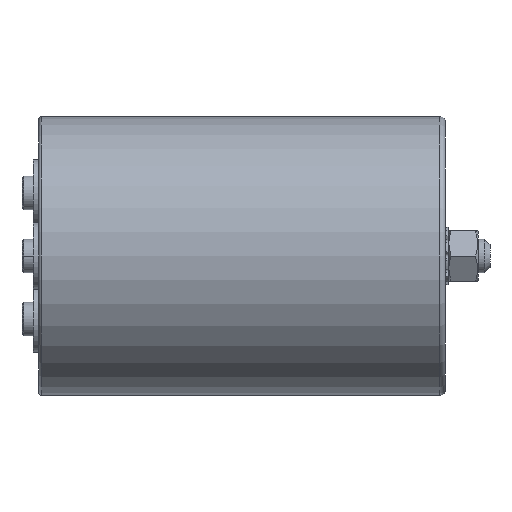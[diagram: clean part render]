
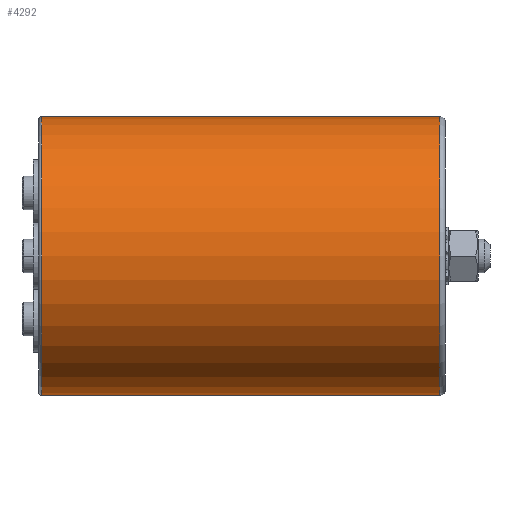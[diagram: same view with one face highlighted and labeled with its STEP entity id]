
A CAD part, left-side view. The second image highlights one B-rep face of the part: STEP entity #4292.
In plain terms, the highlighted cylindrical face has radius 50 mm (diameter 100 mm), a partial arc.
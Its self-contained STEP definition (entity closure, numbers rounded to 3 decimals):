
#128 = DIRECTION ( 'NONE',  ( 0., -1., 0. ) ) ;
#280 = CARTESIAN_POINT ( 'NONE',  ( 0., 2., 50. ) ) ;
#356 = EDGE_CURVE ( 'NONE', #4314, #386, #4655, .T. ) ;
#386 = VERTEX_POINT ( 'NONE', #280 ) ;
#798 = AXIS2_PLACEMENT_3D ( 'NONE', #2285, #2259, #3006 ) ;
#1160 = VERTEX_POINT ( 'NONE', #4088 ) ;
#1203 = VECTOR ( 'NONE', #2088, 1000. ) ;
#1311 = EDGE_CURVE ( 'NONE', #1160, #4456, #4499, .T. ) ;
#1419 = VECTOR ( 'NONE', #128, 1000. ) ;
#1425 = EDGE_CURVE ( 'NONE', #4314, #1160, #3268, .T. ) ;
#1721 = CYLINDRICAL_SURFACE ( 'NONE', #4596, 50. ) ;
#1747 = CARTESIAN_POINT ( 'NONE',  ( 0., 145., 0. ) ) ;
#1808 = AXIS2_PLACEMENT_3D ( 'NONE', #1747, #2798, #2820 ) ;
#1979 = CARTESIAN_POINT ( 'NONE',  ( 0., 0., -50. ) ) ;
#2064 = CARTESIAN_POINT ( 'NONE',  ( 0., 0., 50. ) ) ;
#2088 = DIRECTION ( 'NONE',  ( 0., -1., 0. ) ) ;
#2250 = ORIENTED_EDGE ( 'NONE', *, *, #356, .F. ) ;
#2259 = DIRECTION ( 'NONE',  ( 0., 1., 0. ) ) ;
#2285 = CARTESIAN_POINT ( 'NONE',  ( 0., 2., 0. ) ) ;
#2376 = EDGE_CURVE ( 'NONE', #4456, #386, #3572, .T. ) ;
#2478 = CARTESIAN_POINT ( 'NONE',  ( 0., 2., -50. ) ) ;
#2710 = EDGE_LOOP ( 'NONE', ( #2250, #4715, #3679, #3102 ) ) ;
#2798 = DIRECTION ( 'NONE',  ( 0., -1., 0. ) ) ;
#2820 = DIRECTION ( 'NONE',  ( 0., 0., 1. ) ) ;
#2821 = DIRECTION ( 'NONE',  ( 0., -1., 0. ) ) ;
#3006 = DIRECTION ( 'NONE',  ( 0., 0., -1. ) ) ;
#3102 = ORIENTED_EDGE ( 'NONE', *, *, #2376, .T. ) ;
#3104 = CARTESIAN_POINT ( 'NONE',  ( 0., 145., 50. ) ) ;
#3268 = CIRCLE ( 'NONE', #1808, 50. ) ;
#3572 = CIRCLE ( 'NONE', #798, 50. ) ;
#3679 = ORIENTED_EDGE ( 'NONE', *, *, #1311, .T. ) ;
#3994 = CARTESIAN_POINT ( 'NONE',  ( 0., 0., 0. ) ) ;
#4088 = CARTESIAN_POINT ( 'NONE',  ( 0., 145., -50. ) ) ;
#4287 = DIRECTION ( 'NONE',  ( 0., 0., -1. ) ) ;
#4292 = ADVANCED_FACE ( 'NONE', ( #4351 ), #1721, .T. ) ;
#4314 = VERTEX_POINT ( 'NONE', #3104 ) ;
#4351 = FACE_OUTER_BOUND ( 'NONE', #2710, .T. ) ;
#4456 = VERTEX_POINT ( 'NONE', #2478 ) ;
#4499 = LINE ( 'NONE', #1979, #1419 ) ;
#4596 = AXIS2_PLACEMENT_3D ( 'NONE', #3994, #2821, #4287 ) ;
#4655 = LINE ( 'NONE', #2064, #1203 ) ;
#4715 = ORIENTED_EDGE ( 'NONE', *, *, #1425, .T. ) ;
